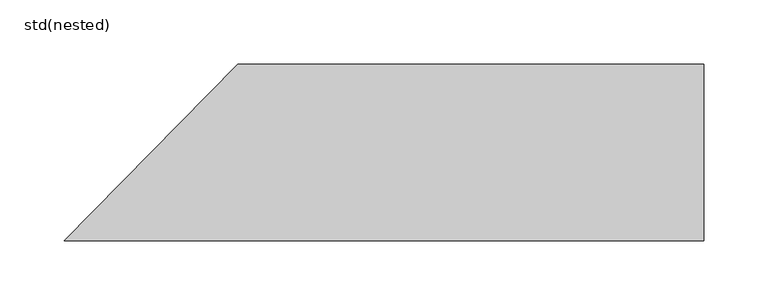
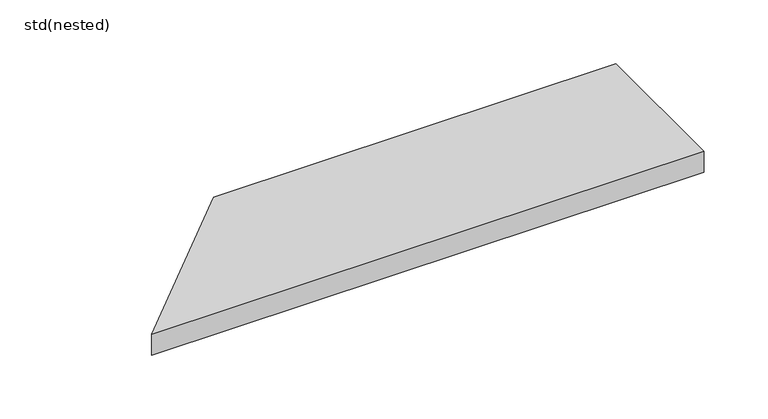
"""IFC4 building model written with IfcOpenShell, lengths in millimetres: sanitary terminal geometry, ZZZ_do not use_PF_ST_SlabDrain_H100SK_gratings_USA_ACO : std(nested)."""

from ifc_helpers import new_model, si_unit, frame, origin, place, context, project, spatial, polyline, outline, extrude, source, transform, mapped, element, save


def std_nested_a8e27626(model_context):
    return source(origin(), model_context, "Body", "SweptSolid", [
        extrude(outline(polyline([(249.936, 69.0), (249.936, -69.0), (-249.936, -69.0), (-114.3237777, 69.0), (249.936, 69.0)])), frame((0.0, 0.0, -20.0), z_axis=(0.0, 0.0, 1.0), x_axis=(1.0, 0.0, 0.0)), (0.0, 0.0, 1.0), 20.0),
    ])


if __name__ == "__main__":
    model = new_model("IFC4")
    model_context = context("Model", 3, world=origin())
    ifc_project = project(units=[si_unit("LENGTHUNIT", "METRE", prefix="MILLI")], contexts=[model_context])
    site = spatial("IfcSite", under=ifc_project)
    building = spatial("IfcBuilding", under=site)
    placement = place(None, origin())
    std_nested_shape = std_nested_a8e27626(model_context)
    element("IfcSanitaryTerminal", 1, ObjectType="ZZZ_do not use_PF_ST_SlabDrain_H100SK_gratings_USA_ACO : std(nested)", at=placement, inside=building, context=model_context, shape_type="MappedRepresentation", body=[
        mapped(std_nested_shape, transform((0.0, 0.0, 0.0), x_axis=(1.0, 0.0, 0.0), y_axis=(0.0, 1.0, 0.0), z_axis=(0.0, 0.0, 1.0))),
    ])
    save(model, "model.ifc")
